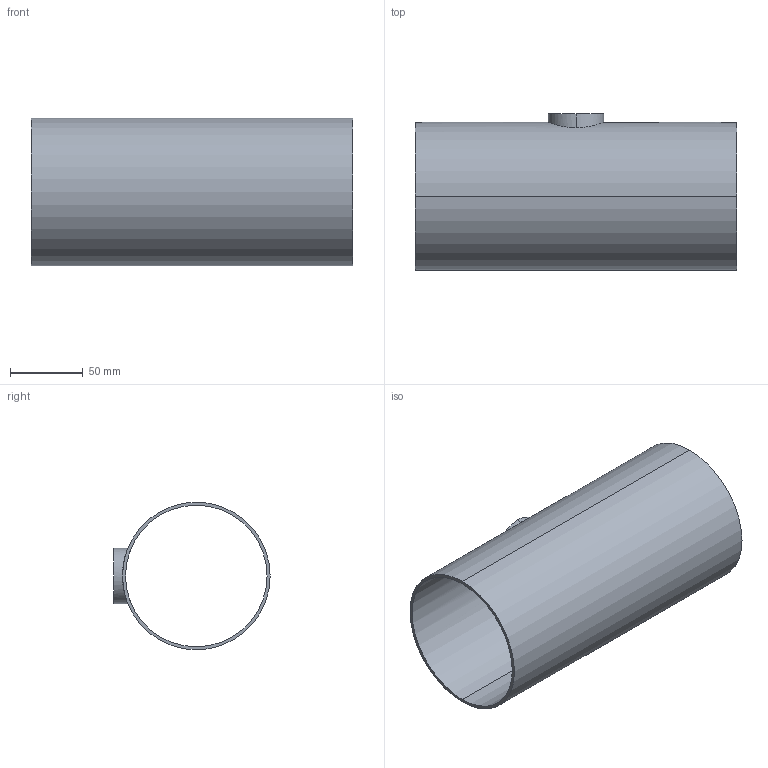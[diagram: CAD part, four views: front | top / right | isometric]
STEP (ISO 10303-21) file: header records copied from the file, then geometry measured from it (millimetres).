
FILE_DESCRIPTION (( 'STEP AP214' ), '1' );
FILE_NAME ('TEG7RS6L4.0x1.5-...STEP', '2016-05-24T11:04:37', ( 'eran' ), ( '' ), 'SwSTEP 2.0', 'SolidWorks 2016', '' );
FILE_SCHEMA (( 'AUTOMOTIVE_DESIGN' ));
Length unit declared in the file: millimetre
Products named in the file (1): TEG7RS6L4.0x1.5-..
Bounding box: 221.4 x 107.5 x 101.6 mm (x, y, z)
Volume: 145405.2 mm3; surface area: 139755.8 mm2
Topology: 1 solids, 1 shells, 11 faces, 24 edges, 16 vertices
Faces by surface type: cylinder 8, plane 3
Entity records: 548 total; most frequent: CARTESIAN_POINT 256, DIRECTION 56, ORIENTED_EDGE 48, EDGE_CURVE 24, AXIS2_PLACEMENT_3D 24, EDGE_LOOP 16, VERTEX_POINT 16, CIRCLE 12
